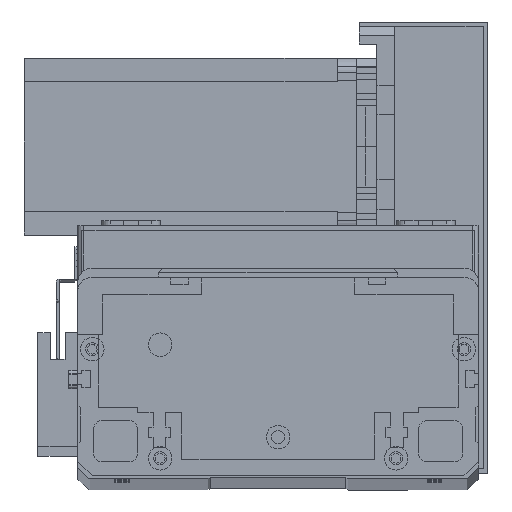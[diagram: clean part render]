
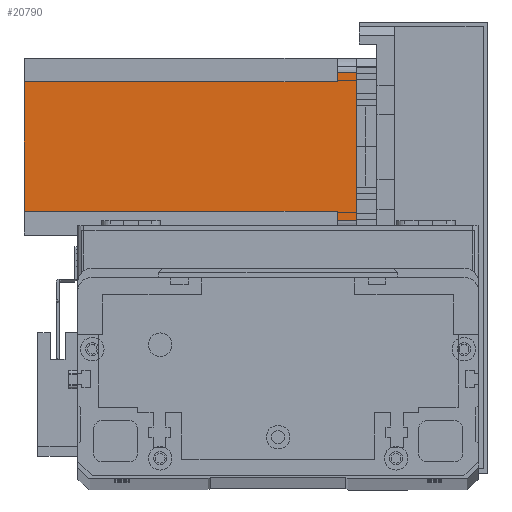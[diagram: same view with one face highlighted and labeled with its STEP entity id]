
A CAD part, top view. The second image highlights one B-rep face of the part: STEP entity #20790.
In plain terms, the highlighted planar face has unit normal (0, 0, 1) as drawn and (0, 1, 0) by its records, which use the part's own axes.
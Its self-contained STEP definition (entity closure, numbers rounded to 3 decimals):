
#67 = ORIENTED_EDGE ( 'NONE', *, *, #9095, .T. ) ;
#569 = LINE ( 'NONE', #29142, #18912 ) ;
#759 = DIRECTION ( 'NONE',  ( 0., 0., 1. ) ) ;
#881 = DIRECTION ( 'NONE',  ( 1., 0., 0. ) ) ;
#1279 = LINE ( 'NONE', #10245, #24886 ) ;
#1474 = LINE ( 'NONE', #12051, #19713 ) ;
#1619 = CARTESIAN_POINT ( 'NONE',  ( 52., 60., -112.5 ) ) ;
#1784 = CARTESIAN_POINT ( 'NONE',  ( 52., 60., -6.5 ) ) ;
#2587 = DIRECTION ( 'NONE',  ( -1., 0., 0. ) ) ;
#2916 = CARTESIAN_POINT ( 'NONE',  ( 0., 60., -112.5 ) ) ;
#3541 = LINE ( 'NONE', #1784, #15524 ) ;
#4538 = VECTOR ( 'NONE', #5055, 1000. ) ;
#4686 = CARTESIAN_POINT ( 'NONE',  ( 8., 60., -6.5 ) ) ;
#5055 = DIRECTION ( 'NONE',  ( -1., 0., 0. ) ) ;
#5175 = AXIS2_PLACEMENT_3D ( 'NONE', #28784, #15212, #759 ) ;
#5551 = CARTESIAN_POINT ( 'NONE',  ( 55., 60., 0. ) ) ;
#7096 = EDGE_CURVE ( 'NONE', #11443, #28647, #10087, .T. ) ;
#7259 = VERTEX_POINT ( 'NONE', #11283 ) ;
#7335 = VERTEX_POINT ( 'NONE', #1619 ) ;
#7804 = EDGE_CURVE ( 'NONE', #10153, #28647, #3541, .T. ) ;
#8489 = EDGE_CURVE ( 'NONE', #7335, #10153, #24079, .T. ) ;
#8657 = DIRECTION ( 'NONE',  ( 0., 0., 1. ) ) ;
#8681 = CARTESIAN_POINT ( 'NONE',  ( 52., 60., -112.5 ) ) ;
#8861 = CARTESIAN_POINT ( 'NONE',  ( 8., 60., -112.5 ) ) ;
#9095 = EDGE_CURVE ( 'NONE', #7335, #26785, #15823, .T. ) ;
#9784 = ORIENTED_EDGE ( 'NONE', *, *, #7804, .F. ) ;
#10070 = EDGE_CURVE ( 'NONE', #10932, #26785, #1474, .T. ) ;
#10087 = LINE ( 'NONE', #15002, #21599 ) ;
#10153 = VERTEX_POINT ( 'NONE', #10225 ) ;
#10225 = CARTESIAN_POINT ( 'NONE',  ( 52., 60., -6.5 ) ) ;
#10245 = CARTESIAN_POINT ( 'NONE',  ( 0., 60., 0. ) ) ;
#10476 = EDGE_CURVE ( 'NONE', #10932, #7259, #16473, .T. ) ;
#10871 = ORIENTED_EDGE ( 'NONE', *, *, #7096, .T. ) ;
#10932 = VERTEX_POINT ( 'NONE', #27351 ) ;
#11283 = CARTESIAN_POINT ( 'NONE',  ( 5., 60., -6.5 ) ) ;
#11443 = VERTEX_POINT ( 'NONE', #5551 ) ;
#11654 = EDGE_CURVE ( 'NONE', #7259, #16550, #569, .T. ) ;
#11945 = CARTESIAN_POINT ( 'NONE',  ( 5., 60., 0. ) ) ;
#12051 = CARTESIAN_POINT ( 'NONE',  ( 8., 60., -112.5 ) ) ;
#12077 = DIRECTION ( 'NONE',  ( 0., 0., -1. ) ) ;
#12550 = DIRECTION ( 'NONE',  ( -1., 0., 0. ) ) ;
#13199 = DIRECTION ( 'NONE',  ( 0., 0., -1. ) ) ;
#15002 = CARTESIAN_POINT ( 'NONE',  ( 55., 60., -112.5 ) ) ;
#15212 = DIRECTION ( 'NONE',  ( 0., 1., 0. ) ) ;
#15524 = VECTOR ( 'NONE', #881, 1000. ) ;
#15823 = LINE ( 'NONE', #2916, #27883 ) ;
#16473 = LINE ( 'NONE', #4686, #4538 ) ;
#16538 = CARTESIAN_POINT ( 'NONE',  ( 55., 60., -6.5 ) ) ;
#16550 = VERTEX_POINT ( 'NONE', #11945 ) ;
#18912 = VECTOR ( 'NONE', #29139, 1000. ) ;
#19713 = VECTOR ( 'NONE', #12077, 1000. ) ;
#20790 = ADVANCED_FACE ( 'NONE', ( #21060 ), #24344, .T. ) ;
#21060 = FACE_OUTER_BOUND ( 'NONE', #23466, .T. ) ;
#21587 = ORIENTED_EDGE ( 'NONE', *, *, #10476, .T. ) ;
#21599 = VECTOR ( 'NONE', #13199, 1000. ) ;
#22709 = ORIENTED_EDGE ( 'NONE', *, *, #25978, .F. ) ;
#23466 = EDGE_LOOP ( 'NONE', ( #22709, #10871, #9784, #26254, #67, #28054, #21587, #27597 ) ) ;
#24079 = LINE ( 'NONE', #8681, #24800 ) ;
#24344 = PLANE ( 'NONE',  #5175 ) ;
#24800 = VECTOR ( 'NONE', #8657, 1000. ) ;
#24886 = VECTOR ( 'NONE', #12550, 1000. ) ;
#25978 = EDGE_CURVE ( 'NONE', #11443, #16550, #1279, .T. ) ;
#26254 = ORIENTED_EDGE ( 'NONE', *, *, #8489, .F. ) ;
#26785 = VERTEX_POINT ( 'NONE', #8861 ) ;
#27351 = CARTESIAN_POINT ( 'NONE',  ( 8., 60., -6.5 ) ) ;
#27597 = ORIENTED_EDGE ( 'NONE', *, *, #11654, .T. ) ;
#27883 = VECTOR ( 'NONE', #2587, 1000. ) ;
#28054 = ORIENTED_EDGE ( 'NONE', *, *, #10070, .F. ) ;
#28647 = VERTEX_POINT ( 'NONE', #16538 ) ;
#28784 = CARTESIAN_POINT ( 'NONE',  ( 0., 60., -112.5 ) ) ;
#29139 = DIRECTION ( 'NONE',  ( 0., 0., 1. ) ) ;
#29142 = CARTESIAN_POINT ( 'NONE',  ( 5., 60., -112.5 ) ) ;
